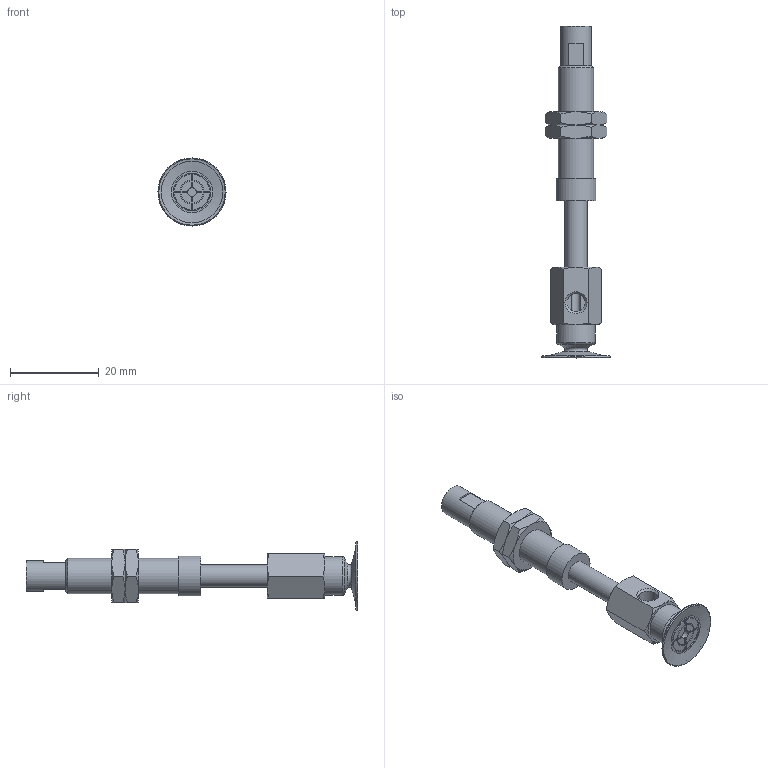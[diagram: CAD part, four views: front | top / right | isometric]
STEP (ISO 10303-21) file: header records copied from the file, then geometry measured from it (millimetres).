
FILE_DESCRIPTION(('STEP AP203'),'1');
FILE_NAME('.stp','2025-02-14T06:49:01',(' '),(' '),'Spatial InterOp 3D',' ',' ');
FILE_SCHEMA(('CONFIG_CONTROL_DESIGN'));
Length unit declared in the file: millimetre
Products named in the file (6): BNABPAYS-15B-15-※; NAPAYS-10A-15--M; NAPAYS-10A-15--F; Nut-10A-S; CONNECTOR-10A-15-PA; BPAG-15B-※_3D
Assembly tree (6 placements, depth 2):
  BNABPAYS-15B-15-※
    NAPAYS-10A-15--M
    NAPAYS-10A-15--F
    Nut-10A-S  x2
    CONNECTOR-10A-15-PA
    BPAG-15B-※_3D
Bounding box: 15.4 x 75 x 15.4 mm (x, y, z)
Volume: 3957.8 mm3; surface area: 5012.5 mm2
Topology: 6 solids, 6 shells, 171 faces, 381 edges, 231 vertices
Faces by surface type: plane 71, cone 60, cylinder 30, torus 10
Full cylindrical faces by diameter (mm): 2 x2, 4 x2, 4.134 x2, 5 x3, 6 x2, 7 x1, 7.188 x2, 8 x1, 8.5 x1, 8.7 x1, 9 x1
Entity records: 4392 total; most frequent: CARTESIAN_POINT 1056, DIRECTION 636, ORIENTED_EDGE 564, EDGE_CURVE 282, AXIS2_PLACEMENT_3D 268, EDGE_LOOP 206, VERTEX_POINT 192, FACE_OUTER_BOUND 175
